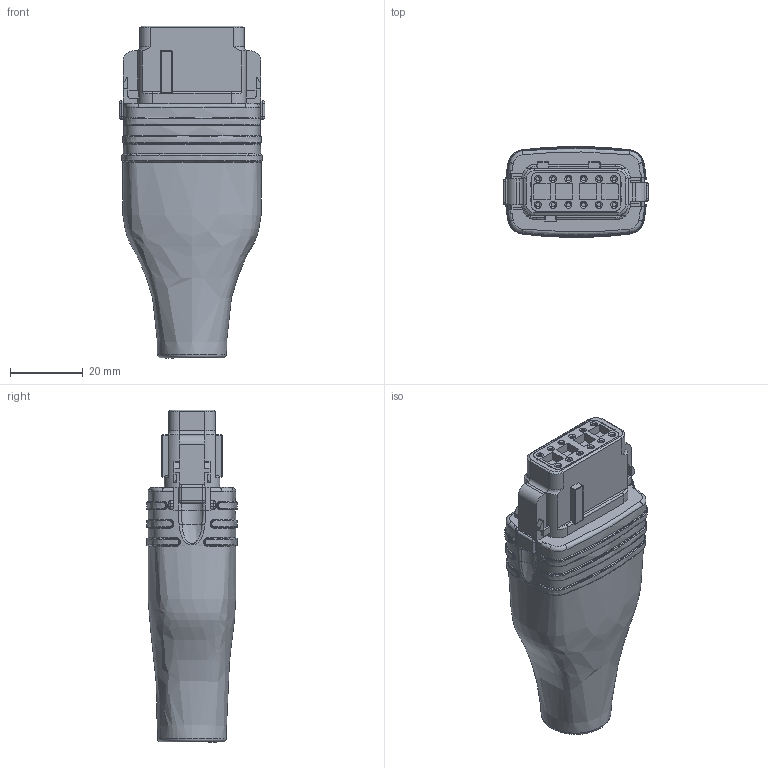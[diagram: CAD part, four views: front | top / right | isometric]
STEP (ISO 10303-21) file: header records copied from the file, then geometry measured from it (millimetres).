
FILE_DESCRIPTION (( 'STEP AP203' ), '1' );
FILE_NAME ('DTM06-12SA.step', '2020-07-13T16:33:09', ( '' ), ( '' ), 'SwSTEP 2.0', 'SolidWorks 2017', '' );
FILE_SCHEMA (( 'CONFIG_CONTROL_DESIGN' ));
Length unit declared in the file: millimetre
Products named in the file (1): DTM06-12SA
Bounding box: 40.03 x 25 x 91.3 mm (x, y, z)
Volume: 52760.5 mm3; surface area: 10801.1 mm2
Topology: 1 solids, 1 shells, 635 faces, 1676 edges, 1054 vertices
Faces by surface type: plane 276, cylinder 197, bspline 146, cone 16
Full cylindrical faces by diameter (mm): 1.118 x12, 2.083 x12
Entity records: 32826 total; most frequent: CARTESIAN_POINT 18364, ORIENTED_EDGE 3182, DIRECTION 2701, EDGE_CURVE 1591, VERTEX_POINT 1010, AXIS2_PLACEMENT_3D 930, LINE 841, VECTOR 841
